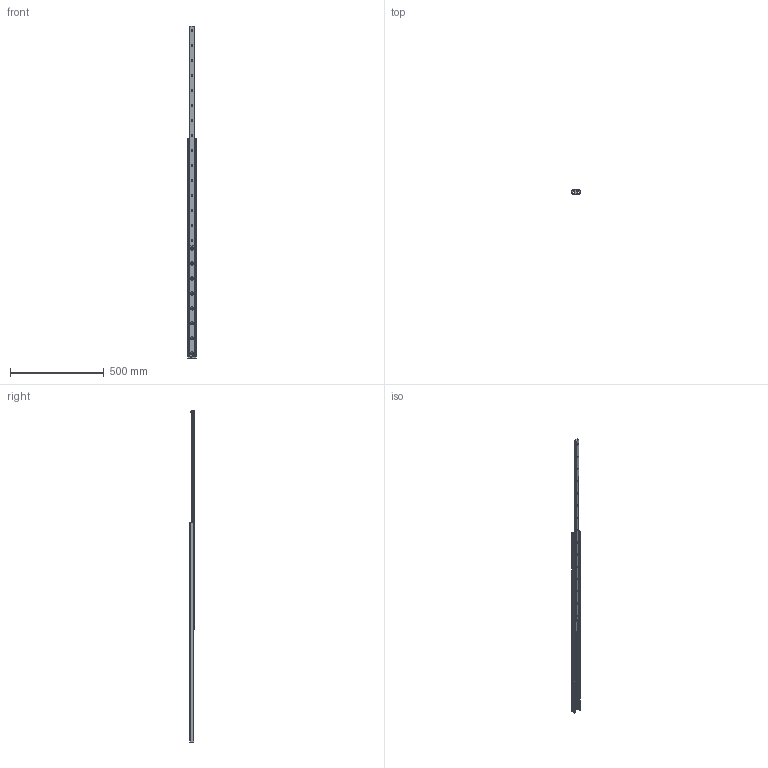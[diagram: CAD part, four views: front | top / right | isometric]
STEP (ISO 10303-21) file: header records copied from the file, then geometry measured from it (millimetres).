
FILE_DESCRIPTION(('STEP AP214'),'1');
FILE_NAME('rail_asn43-1170_01.stp','2017-06-06T10:17:59',('TraceParts'),('TraceParts S.A.'),'Spatial InterOp 3D',' ',' ');
FILE_SCHEMA(('automotive_design'));
Length unit declared in the file: millimetre
Products named in the file (2): rail_asn43-1170_01_1; rail_asn43-1170_01_2
Bounding box: 43 x 22.01 x 1773 mm (x, y, z)
Volume: 712156.8 mm3; surface area: 275718.2 mm2
Topology: 2 solids, 2 shells, 227 faces, 564 edges, 346 vertices
Faces by surface type: cylinder 91, cone 90, plane 46
Entity records: 6900 total; most frequent: DIRECTION 1294, CARTESIAN_POINT 1139, ORIENTED_EDGE 1128, EDGE_CURVE 564, AXIS2_PLACEMENT_3D 501, VERTEX_POINT 346, EDGE_LOOP 292, LINE 292
